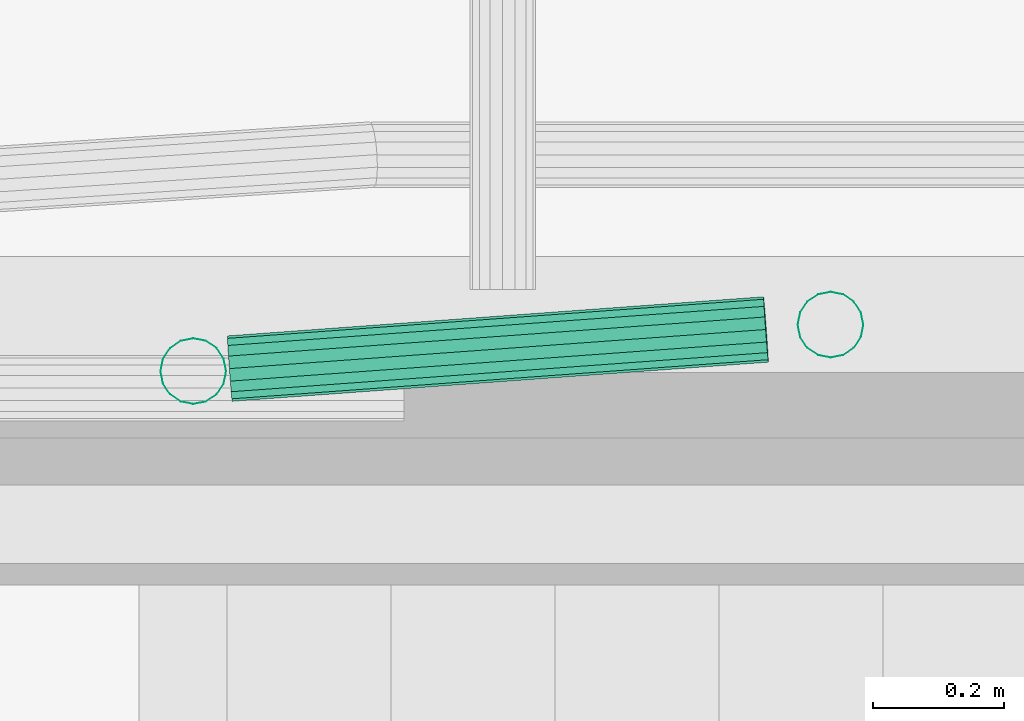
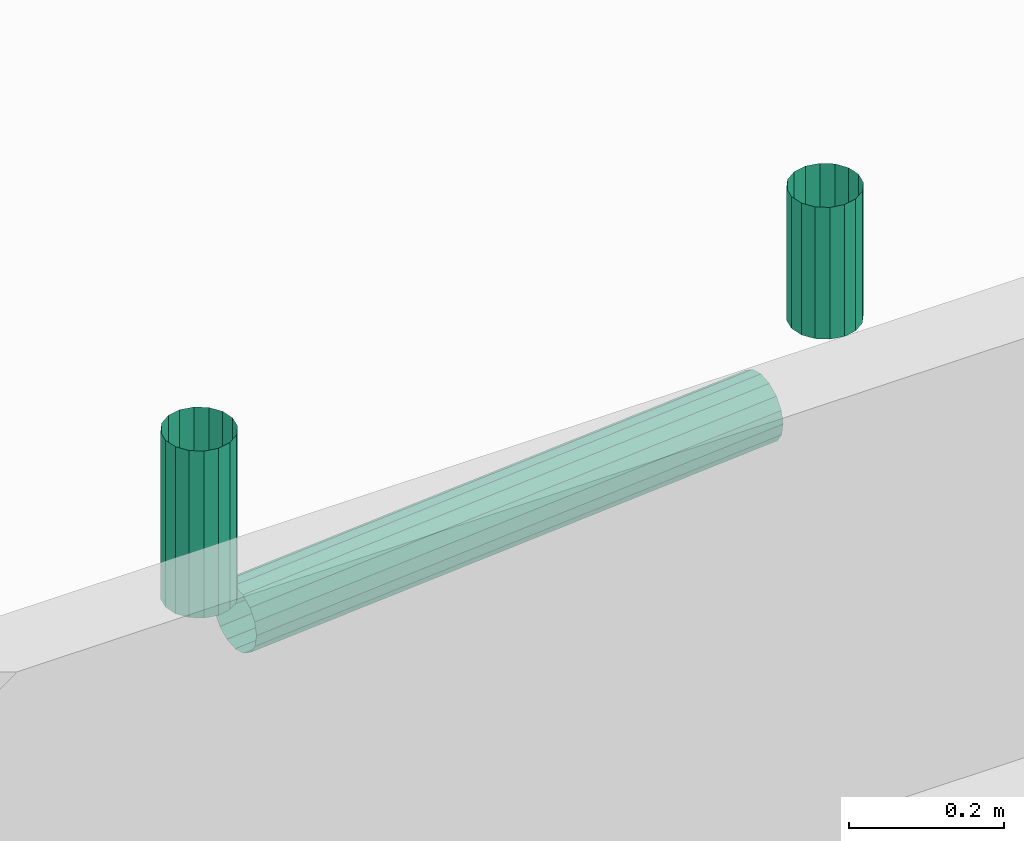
# One storey, part 86 of 106: 3 flow segments.
"""IFC2X3 building model written with IfcOpenShell, lengths in metres."""

from ifc_helpers import new_model, entity, si_unit, converted_unit, derived_unit, money_unit, direction, frame, origin_with_axes, place, context, subcontext, project, spatial, faceted_brep, material, type_object, element, save


model = new_model("IFC2X3")

# Units and contexts
model_context = context("Model", 3, precision=1e-05, world=origin_with_axes(), true_north=direction((0.0, 1.0)))
body_context = subcontext(model_context, "Body", "Model", "MODEL_VIEW", scale=1.0)
ifc_project = project(units=[si_unit("LENGTHUNIT", "METRE"), si_unit("AREAUNIT", "SQUARE_METRE"), si_unit("VOLUMEUNIT", "CUBIC_METRE"), si_unit("ABSORBEDDOSEUNIT", "GRAY"), si_unit("AMOUNTOFSUBSTANCEUNIT", "MOLE"), si_unit("DOSEEQUIVALENTUNIT", "SIEVERT"), si_unit("ELECTRICCAPACITANCEUNIT", "FARAD"), si_unit("ELECTRICCHARGEUNIT", "COULOMB"), si_unit("ELECTRICCONDUCTANCEUNIT", "SIEMENS"), si_unit("ELECTRICCURRENTUNIT", "AMPERE"), si_unit("ELECTRICRESISTANCEUNIT", "OHM"), si_unit("ELECTRICVOLTAGEUNIT", "VOLT"), si_unit("ENERGYUNIT", "JOULE"), si_unit("FORCEUNIT", "NEWTON"), si_unit("FREQUENCYUNIT", "HERTZ"), si_unit("ILLUMINANCEUNIT", "LUX"), si_unit("INDUCTANCEUNIT", "HENRY"), si_unit("LUMINOUSFLUXUNIT", "LUMEN"), si_unit("LUMINOUSINTENSITYUNIT", "CANDELA"), si_unit("MAGNETICFLUXDENSITYUNIT", "TESLA"), si_unit("MAGNETICFLUXUNIT", "WEBER"), si_unit("MASSUNIT", "GRAM"), converted_unit("PLANEANGLEUNIT", "degree", entity("IfcReal", 0.0174532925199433), si_unit("PLANEANGLEUNIT", "RADIAN"), dimensions=[0, 0, 0, 0, 0, 0, 0]), si_unit("POWERUNIT", "WATT"), si_unit("PRESSUREUNIT", "PASCAL"), si_unit("RADIOACTIVITYUNIT", "BECQUEREL"), si_unit("SOLIDANGLEUNIT", "STERADIAN"), si_unit("THERMODYNAMICTEMPERATUREUNIT", "KELVIN"), si_unit("TIMEUNIT", "SECOND"), derived_unit("ACCELERATIONUNIT", [(si_unit("LENGTHUNIT", "METRE"), 1), (si_unit("TIMEUNIT", "SECOND"), -2)]), derived_unit("ANGULARVELOCITYUNIT", [(converted_unit("PLANEANGLEUNIT", "degree", entity("IfcReal", 0.0174532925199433), si_unit("PLANEANGLEUNIT", "RADIAN"), dimensions=[0, 0, 0, 0, 0, 0, 0]), 1), (si_unit("TIMEUNIT", "SECOND"), -1)]), derived_unit("CURVATUREUNIT", [(converted_unit("PLANEANGLEUNIT", "degree", entity("IfcReal", 0.0174532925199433), si_unit("PLANEANGLEUNIT", "RADIAN"), dimensions=[0, 0, 0, 0, 0, 0, 0]), 1), (si_unit("LENGTHUNIT", "METRE"), -1)]), derived_unit("DYNAMICVISCOSITYUNIT", [(si_unit("PRESSUREUNIT", "PASCAL"), 1), (si_unit("TIMEUNIT", "SECOND"), 1)]), derived_unit("HEATFLUXDENSITYUNIT", [(si_unit("POWERUNIT", "WATT"), 1), (si_unit("LENGTHUNIT", "METRE"), -2)]), derived_unit("HEATINGVALUEUNIT", [(si_unit("ENERGYUNIT", "JOULE"), 1), (si_unit("MASSUNIT", "GRAM"), -1)]), derived_unit("INTEGERCOUNTRATEUNIT", [(si_unit("TIMEUNIT", "SECOND"), -1)]), derived_unit("IONCONCENTRATIONUNIT", [(si_unit("MASSUNIT", "GRAM"), 1), (si_unit("VOLUMEUNIT", "CUBIC_METRE"), -1)]), derived_unit("ISOTHERMALMOISTURECAPACITYUNIT", [(si_unit("VOLUMEUNIT", "CUBIC_METRE"), 1), (si_unit("MASSUNIT", "GRAM"), -1)]), derived_unit("KINEMATICVISCOSITYUNIT", [(si_unit("AREAUNIT", "SQUARE_METRE"), 1), (si_unit("TIMEUNIT", "SECOND"), -1)]), derived_unit("LINEARFORCEUNIT", [(si_unit("FORCEUNIT", "NEWTON"), 1), (si_unit("LENGTHUNIT", "METRE"), -1)]), derived_unit("LINEARMOMENTUNIT", [(si_unit("FORCEUNIT", "NEWTON"), 1), (si_unit("LENGTHUNIT", "METRE"), -1)]), derived_unit("LINEARSTIFFNESSUNIT", [(si_unit("FORCEUNIT", "NEWTON"), 1), (si_unit("LENGTHUNIT", "METRE"), -1)]), derived_unit("LINEARVELOCITYUNIT", [(si_unit("LENGTHUNIT", "METRE"), 1), (si_unit("TIMEUNIT", "SECOND"), -1)]), derived_unit("LUMINOUSINTENSITYDISTRIBUTIONUNIT", [(si_unit("LUMINOUSINTENSITYUNIT", "CANDELA"), 1), (si_unit("LUMINOUSFLUXUNIT", "LUMEN"), -1)]), derived_unit("MASSDENSITYUNIT", [(si_unit("MASSUNIT", "GRAM"), 1), (si_unit("VOLUMEUNIT", "CUBIC_METRE"), -1)]), derived_unit("MASSFLOWRATEUNIT", [(si_unit("MASSUNIT", "GRAM"), 1), (si_unit("TIMEUNIT", "SECOND"), -1)]), derived_unit("MASSPERLENGTHUNIT", [(si_unit("MASSUNIT", "GRAM"), 1), (si_unit("LENGTHUNIT", "METRE"), -1)]), derived_unit("MODULUSOFELASTICITYUNIT", [(si_unit("FORCEUNIT", "NEWTON"), 1), (si_unit("AREAUNIT", "SQUARE_METRE"), -1)]), derived_unit("MODULUSOFLINEARSUBGRADEREACTIONUNIT", [(si_unit("FORCEUNIT", "NEWTON"), 1), (si_unit("LENGTHUNIT", "METRE"), -2)]), derived_unit("MODULUSOFROTATIONALSUBGRADEREACTIONUNIT", [(si_unit("FORCEUNIT", "NEWTON"), 1), (si_unit("LENGTHUNIT", "METRE"), 1)]), derived_unit("MODULUSOFSUBGRADEREACTIONUNIT", [(si_unit("FORCEUNIT", "NEWTON"), 1), (si_unit("VOLUMEUNIT", "CUBIC_METRE"), -1)]), derived_unit("MOISTUREDIFFUSIVITYUNIT", [(si_unit("VOLUMEUNIT", "CUBIC_METRE"), 1), (si_unit("TIMEUNIT", "SECOND"), -1)]), derived_unit("MOLECULARWEIGHTUNIT", [(si_unit("MASSUNIT", "GRAM"), 1), (si_unit("AMOUNTOFSUBSTANCEUNIT", "MOLE"), -1)]), derived_unit("PLANARFORCEUNIT", [(si_unit("FORCEUNIT", "NEWTON"), 1), (si_unit("LENGTHUNIT", "METRE"), -2)]), derived_unit("ROTATIONALFREQUENCYUNIT", [(si_unit("TIMEUNIT", "SECOND"), -1)]), derived_unit("ROTATIONALMASSUNIT", [(si_unit("MASSUNIT", "GRAM"), 1), (si_unit("LENGTHUNIT", "METRE"), 2)]), derived_unit("ROTATIONALSTIFFNESSUNIT", [(si_unit("FORCEUNIT", "NEWTON"), 1), (si_unit("LENGTHUNIT", "METRE"), 1), (converted_unit("PLANEANGLEUNIT", "degree", entity("IfcReal", 0.0174532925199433), si_unit("PLANEANGLEUNIT", "RADIAN"), dimensions=[0, 0, 0, 0, 0, 0, 0]), -1)]), derived_unit("SECTIONAREAINTEGRALUNIT", [(si_unit("LENGTHUNIT", "METRE"), 5)]), derived_unit("SECTIONMODULUSUNIT", [(si_unit("LENGTHUNIT", "METRE"), 3)]), derived_unit("SHEARMODULUSUNIT", [(si_unit("FORCEUNIT", "NEWTON"), 1), (si_unit("AREAUNIT", "SQUARE_METRE"), -1)]), derived_unit("SOUNDPOWERUNIT", [(si_unit("ENERGYUNIT", "JOULE"), 1), (si_unit("TIMEUNIT", "SECOND"), -1)]), derived_unit("SPECIFICHEATCAPACITYUNIT", [(si_unit("FORCEUNIT", "NEWTON"), 1), (si_unit("MASSUNIT", "GRAM"), -1), (si_unit("THERMODYNAMICTEMPERATUREUNIT", "KELVIN"), -1)]), derived_unit("TEMPERATUREGRADIENTUNIT", [(si_unit("THERMODYNAMICTEMPERATUREUNIT", "KELVIN"), 1), (si_unit("LENGTHUNIT", "METRE"), -1)]), derived_unit("THERMALADMITTANCEUNIT", [(si_unit("POWERUNIT", "WATT"), 1), (si_unit("AREAUNIT", "SQUARE_METRE"), -1), (si_unit("THERMODYNAMICTEMPERATUREUNIT", "KELVIN"), -1)]), derived_unit("THERMALCONDUCTANCEUNIT", [(si_unit("POWERUNIT", "WATT"), 1), (si_unit("LENGTHUNIT", "METRE"), -1), (si_unit("THERMODYNAMICTEMPERATUREUNIT", "KELVIN"), -1)]), derived_unit("THERMALEXPANSIONCOEFFICIENTUNIT", [(si_unit("THERMODYNAMICTEMPERATUREUNIT", "KELVIN"), -1)]), derived_unit("THERMALRESISTANCEUNIT", [(si_unit("AREAUNIT", "SQUARE_METRE"), 1), (si_unit("POWERUNIT", "WATT"), -1)]), derived_unit("THERMALTRANSMITTANCEUNIT", [(si_unit("POWERUNIT", "WATT"), 1), (si_unit("AREAUNIT", "SQUARE_METRE"), -1), (si_unit("THERMODYNAMICTEMPERATUREUNIT", "KELVIN"), -1)]), derived_unit("TORQUEUNIT", [(si_unit("FORCEUNIT", "NEWTON"), 1), (si_unit("LENGTHUNIT", "METRE"), 1)]), derived_unit("VAPORPERMEABILITYUNIT", [(si_unit("MASSUNIT", "GRAM"), 1), (si_unit("TIMEUNIT", "SECOND"), -1)]), derived_unit("VOLUMETRICFLOWRATEUNIT", [(si_unit("VOLUMEUNIT", "CUBIC_METRE"), 1), (si_unit("TIMEUNIT", "SECOND"), -1)]), derived_unit("WARPINGCONSTANTUNIT", [(si_unit("LENGTHUNIT", "METRE"), 6)]), derived_unit("WARPINGMOMENTUNIT", [(si_unit("FORCEUNIT", "NEWTON"), 1), (si_unit("LENGTHUNIT", "METRE"), 2)]), money_unit("GBP")], contexts=[model_context])

# Site, building, storey
site_placement = place(None, origin_with_axes())
site = spatial("IfcSite", under=ifc_project, at=site_placement, Name="Site", CompositionType="ELEMENT")
building_placement = place(site_placement, origin_with_axes())
building = spatial("IfcBuilding", under=site, at=building_placement, Name="Building01", CompositionType="ELEMENT")
storey_placement = place(building_placement, origin_with_axes())
storey = spatial("IfcBuildingStorey", under=building, at=storey_placement, Name="GF", CompositionType="ELEMENT", Elevation=0.0)

# Flow segments
ifc_material = material(Name="M_BSUK_ColdWater")
pipe_segment_type = type_object("IfcPipeSegmentType", Name="M-BmpStraightpipe-DefaultPipe", PredefinedType="RIGIDSEGMENT")
flow_segment_1_placement = place(storey_placement, frame((13.75, 9.043892, 14.93), z_axis=(1.0, 0.0, 0.0), x_axis=(0.0, 0.0, -1.0)))
element("IfcFlowSegment", 1, at=flow_segment_1_placement, inside=storey, type_object=pipe_segment_type, material=ifc_material, Name="M-BmpStraightpipe-DefaultPipe", ObjectType="M-BmpStraightpipe-DefaultPipe", context=body_context, shape_type="Brep", body=[
    faceted_brep([(0.207268, 0.0, -0.05), (0.0, 0.0, -0.05), (0.0, 0.019134, -0.046194), (0.207268, 0.019134, -0.046194), (0.0, 0.035355, -0.035355), (0.207268, 0.035355, -0.035355), (0.0, 0.046194, -0.019134), (0.207268, 0.046194, -0.019134), (0.0, 0.05, 0.0), (0.207268, 0.05, 0.0), (0.0, 0.046194, 0.019134), (0.207268, 0.046194, 0.019134), (0.0, 0.035355, 0.035355), (0.207268, 0.035355, 0.035355), (0.0, 0.019134, 0.046194), (0.207268, 0.019134, 0.046194), (0.0, 0.0, 0.05), (0.207268, 0.0, 0.05), (0.0, -0.019134, 0.046194), (0.207268, -0.019134, 0.046194), (0.0, -0.035355, 0.035355), (0.207268, -0.035355, 0.035355), (0.0, -0.046194, 0.019134), (0.207268, -0.046194, 0.019134), (0.0, -0.05, 0.0), (0.207268, -0.05, 0.0), (0.0, -0.046194, -0.019134), (0.207268, -0.046194, -0.019134), (0.0, -0.035355, -0.035355), (0.207268, -0.035355, -0.035355), (0.0, -0.019134, -0.046194), (0.207268, -0.019134, -0.046194)], [[[0, 1, 2, 3]], [[3, 2, 4, 5]], [[5, 4, 6, 7]], [[7, 6, 8, 9]], [[9, 8, 10, 11]], [[11, 10, 12, 13]], [[13, 12, 14, 15]], [[15, 14, 16, 17]], [[17, 16, 18, 19]], [[19, 18, 20, 21]], [[21, 20, 22, 23]], [[23, 22, 24, 25]], [[25, 24, 26, 27]], [[27, 26, 28, 29]], [[29, 28, 30, 31]], [[31, 30, 1, 0]]]),
])
flow_segment_2_placement = place(storey_placement, frame((12.778585, 8.973056, 14.93), z_axis=(1.0, 0.0, 0.0), x_axis=(0.0, 0.0, -1.0)))
element("IfcFlowSegment", 2, at=flow_segment_2_placement, inside=storey, type_object=pipe_segment_type, material=ifc_material, Name="M-BmpStraightpipe-DefaultPipe", ObjectType="M-BmpStraightpipe-DefaultPipe", context=body_context, shape_type="Brep", body=[
    faceted_brep([(0.262571, 0.0, -0.05), (0.0, 0.0, -0.05), (0.0, 0.019134, -0.046194), (0.262571, 0.019134, -0.046194), (0.0, 0.035355, -0.035355), (0.262571, 0.035355, -0.035355), (0.0, 0.046194, -0.019134), (0.262571, 0.046194, -0.019134), (0.0, 0.05, 0.0), (0.262571, 0.05, 0.0), (0.0, 0.046194, 0.019134), (0.262571, 0.046194, 0.019134), (0.0, 0.035355, 0.035355), (0.262571, 0.035355, 0.035355), (0.0, 0.019134, 0.046194), (0.262571, 0.019134, 0.046194), (0.0, 0.0, 0.05), (0.262571, 0.0, 0.05), (0.0, -0.019134, 0.046194), (0.262571, -0.019134, 0.046194), (0.0, -0.035355, 0.035355), (0.262571, -0.035355, 0.035355), (0.0, -0.046194, 0.019134), (0.262571, -0.046194, 0.019134), (0.0, -0.05, 0.0), (0.262571, -0.05, 0.0), (0.0, -0.046194, -0.019134), (0.262571, -0.046194, -0.019134), (0.0, -0.035355, -0.035355), (0.262571, -0.035355, -0.035355), (0.0, -0.019134, -0.046194), (0.262571, -0.019134, -0.046194)], [[[0, 1, 2, 3]], [[3, 2, 4, 5]], [[5, 4, 6, 7]], [[7, 6, 8, 9]], [[9, 8, 10, 11]], [[11, 10, 12, 13]], [[13, 12, 14, 15]], [[15, 14, 16, 17]], [[17, 16, 18, 19]], [[19, 18, 20, 21]], [[21, 20, 22, 23]], [[23, 22, 24, 25]], [[25, 24, 26, 27]], [[27, 26, 28, 29]], [[29, 28, 30, 31]], [[31, 30, 1, 0]]]),
])
flow_segment_3_placement = place(storey_placement, frame((13.651511, 9.03671, 14.622739), z_axis=(0.07272684, -0.9973519, 0.0), x_axis=(-0.99727399, -0.07272116, -0.01249902)))
element("IfcFlowSegment", 3, at=flow_segment_3_placement, inside=storey, type_object=pipe_segment_type, material=ifc_material, Name="M-BmpStraightpipe-DefaultPipe", ObjectType="M-BmpStraightpipe-DefaultPipe", context=body_context, shape_type="Brep", body=[
    faceted_brep([(0.819683, 0.0, -0.05), (0.0, 0.0, -0.05), (0.0, 0.019134, -0.046194), (0.819683, 0.019134, -0.046194), (0.0, 0.035355, -0.035355), (0.819683, 0.035355, -0.035355), (0.0, 0.046194, -0.019134), (0.819683, 0.046194, -0.019134), (0.0, 0.05, 0.0), (0.819683, 0.05, 0.0), (0.0, 0.046194, 0.019134), (0.819683, 0.046194, 0.019134), (0.0, 0.035355, 0.035355), (0.819683, 0.035355, 0.035355), (0.0, 0.019134, 0.046194), (0.819683, 0.019134, 0.046194), (0.0, 0.0, 0.05), (0.819683, 0.0, 0.05), (0.0, -0.019134, 0.046194), (0.819683, -0.019134, 0.046194), (0.0, -0.035355, 0.035355), (0.819683, -0.035355, 0.035355), (0.0, -0.046194, 0.019134), (0.819683, -0.046194, 0.019134), (0.0, -0.05, 0.0), (0.819683, -0.05, 0.0), (0.0, -0.046194, -0.019134), (0.819683, -0.046194, -0.019134), (0.0, -0.035355, -0.035355), (0.819683, -0.035355, -0.035355), (0.0, -0.019134, -0.046194), (0.819683, -0.019134, -0.046194)], [[[0, 1, 2, 3]], [[3, 2, 4, 5]], [[5, 4, 6, 7]], [[7, 6, 8, 9]], [[9, 8, 10, 11]], [[11, 10, 12, 13]], [[13, 12, 14, 15]], [[15, 14, 16, 17]], [[17, 16, 18, 19]], [[19, 18, 20, 21]], [[21, 20, 22, 23]], [[23, 22, 24, 25]], [[25, 24, 26, 27]], [[27, 26, 28, 29]], [[29, 28, 30, 31]], [[31, 30, 1, 0]]]),
])

save(model, "model.ifc")
